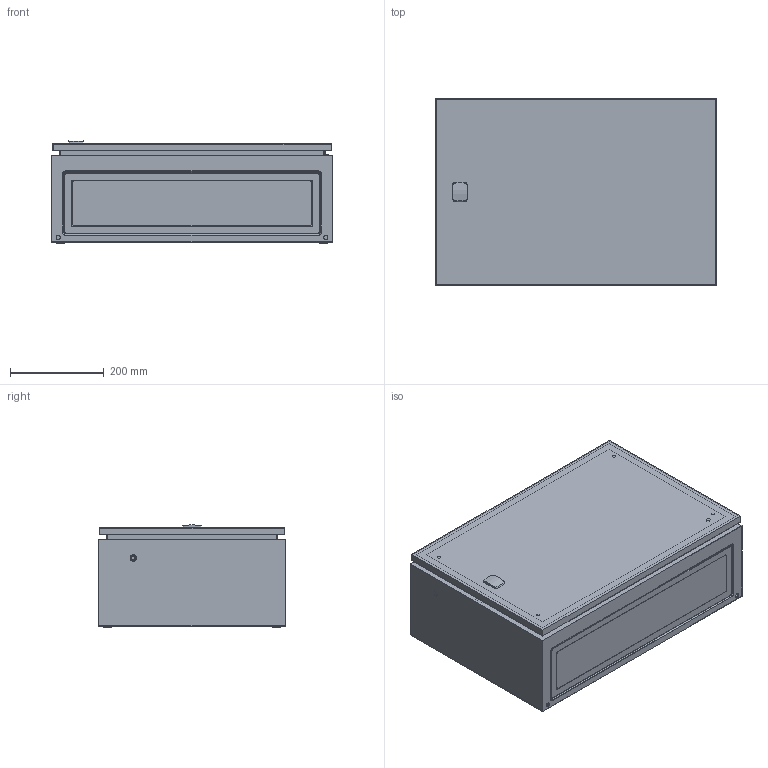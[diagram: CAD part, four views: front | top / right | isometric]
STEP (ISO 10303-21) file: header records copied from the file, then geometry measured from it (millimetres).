
FILE_DESCRIPTION(/* description */ ('STEP AP203'),/* implementation_level */ '2;1');
FILE_NAME(/* name */ 'MAS0406021R5(0)',/* time_stamp */ '2024-03-13T11:48:08+01:00',/* author */ ('License CC BY-ND 4.0'),/* organization */ ('CADENAS'),/* preprocessor_version */ 'ST-DEVELOPER v19.3',/* originating_system */ 'PARTsolutions',/* authorisation */ ' ');
FILE_SCHEMA (('CONFIG_CONTROL_DESIGN'));
Length unit declared in the file: millimetre
Products named in the file (8): MAS0406021R5(0); MAS0406021(0); MMSH06SS(0)_right; ADP04060R5(0); ALL503(0,0); AMP04060_MPL(0); AF04R5_GP(0); AG04_GPG(0)
Assembly tree (8 placements, depth 2):
  MAS0406021R5(0)
    MAS0406021(0)
    MMSH06SS(0)_right  x2
    ADP04060R5(0)
    ALL503(0,0)
    AMP04060_MPL(0)
    AF04R5_GP(0)
    AG04_GPG(0)
Bounding box: 600 x 400 x 217.67 mm (x, y, z)
Volume: 2113612.6 mm3; surface area: 2448635.9 mm2
Topology: 8 solids, 8 shells, 369 faces, 876 edges, 570 vertices
Faces by surface type: plane 237, cylinder 84, cone 47, torus 1
Full cylindrical faces by diameter (mm): 4.9 x2, 6 x4, 7 x4, 8 x7, 8.5 x4, 8.7 x2, 9 x2, 14 x7, 18 x1, 27 x1
Entity records: 10283 total; most frequent: CARTESIAN_POINT 1733, DIRECTION 1645, ORIENTED_EDGE 1484, EDGE_CURVE 742, AXIS2_PLACEMENT_3D 581, VERTEX_POINT 523, EDGE_LOOP 487, FACE_BOUND 487
